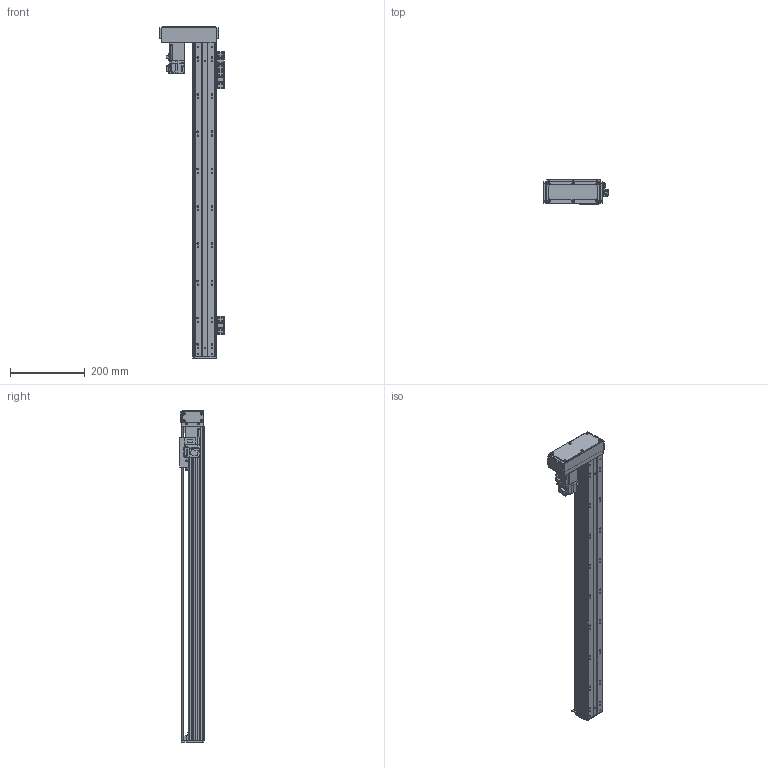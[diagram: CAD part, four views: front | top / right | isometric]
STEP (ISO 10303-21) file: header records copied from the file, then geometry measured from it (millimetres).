
FILE_DESCRIPTION(/* description */ ('MANUFACTURE'),/* implementation_level */ '2;1');
FILE_NAME(/* name */ '\\192.168.0.160\disk1\HAN SHIN Master\B-설계부문\C-표준\B-2024년\BC02-표준도면\+로봇 개선표준도면\표준 승인도 폴더 - 재작업\3D\HG65\병렬-L\HG65-L10-N-0700-R10.stp',/* time_stamp */ '2024-03-05T15:33:12+09:00',/* author */ ('User'),/* organization */ (''),/* preprocessor_version */ 'ST-DEVELOPER v18.1',/* originating_system */ 'Autodesk Inventor 2022',/* authorisation */ 'LIP');
FILE_SCHEMA (('AUTOMOTIVE_DESIGN { 1 0 10303 214 3 1 1 }'));
Products named in the file (22): HG65-L10-N-0500-R10 - 간소화; HR65 R BASE; HR65,75 SENSOR DOG; HR65 REAR COVER; HR65 FRONT BLOCK; HR65 FRONT BLOCK_1; hsr_ftht_A-M6F_grease_nipple_joint; HR65 UPCOVER (S); NIPPLE CAP(신규); HC1STOPPER; HR65 L,R MOTOR PLATE (100W)-사출; MOTOR PLATE-100W(MITSUBISHI); hg-kr13_; 화살표; HR65-LR-BELT COVER; HR65-BELT COVER-COVER; HR65-BELT COVER-COVER2; HR65-BELT COVER-COVER3; HR65 TABLE(Wide&Normal); ESF1210 NUT; SENSOR BRK(EE-SX674A); EE_SX674A
Assembly tree (34 placements, depth 2):
  HG65-L10-N-0500-R10 - 간소화
    HR65 R BASE
    HR65,75 SENSOR DOG
    SENSOR BRK(EE-SX674A)  x3
    EE_SX674A  x3
    HR65 REAR COVER
    HR65 FRONT BLOCK
    HR65 FRONT BLOCK_1
    HC1STOPPER  x4
    hsr_ftht_A-M6F_grease_nipple_joint  x3
    HR65 UPCOVER (S)
    NIPPLE CAP(신규)  x3
    HR65 L,R MOTOR PLATE (100W)-사출
    MOTOR PLATE-100W(MITSUBISHI)
    hg-kr13_
    화살표  x2
    HR65-LR-BELT COVER
    HR65-BELT COVER-COVER
    HR65-BELT COVER-COVER2
    HR65-BELT COVER-COVER3  x2
    HR65 TABLE(Wide&Normal)
    ESF1210 NUT
Bounding box: 172 x 65 x 891 mm (x, y, z)
Volume: 1231676 mm3; surface area: 630944.4 mm2
Topology: 34 solids, 34 shells, 2719 faces, 7474 edges, 4920 vertices
Faces by surface type: plane 1792, cylinder 687, cone 177, sphere 24, bspline 21, torus 18
Full cylindrical faces by diameter (mm): 2.459 x74, 3 x18, 3.242 x50, 3.4 x32, 3.5 x14, 4 x14, 4.134 x1, 4.5 x49, 4.917 x5, 5 x12, 5.6 x5, 5.9 x2, 6 x15, 6.5 x10, 8 x20, 9 x4, 10 x1, 12 x1, 15 x1, 16 x1, 17 x1, 22 x2, 24 x1, 24.5 x1, 28 x2, 29.4 x1, 30 x2
Entity records: 77178 total; most frequent: CARTESIAN_POINT 15066, ORIENTED_EDGE 12716, DIRECTION 12217, EDGE_CURVE 6358, LINE 4877, VECTOR 4877, VERTEX_POINT 4219, AXIS2_PLACEMENT_3D 3670
